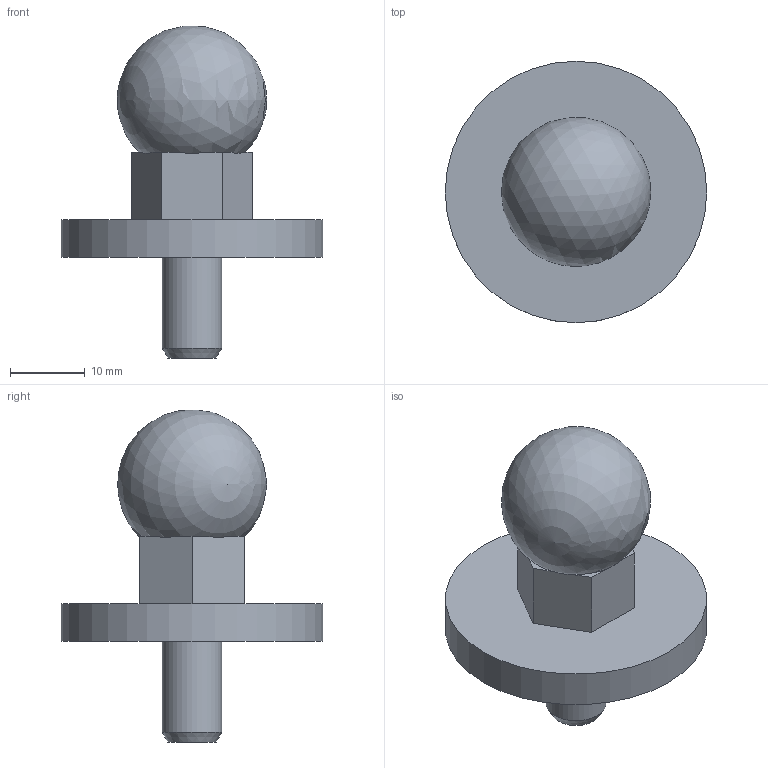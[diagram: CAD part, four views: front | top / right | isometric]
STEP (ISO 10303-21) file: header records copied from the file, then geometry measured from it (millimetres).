
FILE_DESCRIPTION(/* description */ (''),/* implementation_level */ '2;1');
FILE_NAME(/* name */ 'C:\Local Work Area\Progetti\AP\CALIBRI\20.XX 21.XX 22.XX SFERE\20.03.stp',/* time_stamp */ '2020-10-21T16:19:51+02:00',/* author */ ('CAD5'),/* organization */ (''),/* preprocessor_version */ 'ST-DEVELOPER v17.2',/* originating_system */ 'Autodesk Inventor 2019',/* authorisation */ '');
FILE_SCHEMA (('AUTOMOTIVE_DESIGN { 1 0 10303 214 3 1 1 }'));
Length unit declared in the file: millimetre
Products named in the file (5): 20.03; 20.01-A; 20.03-A; 22.01-A; UNI 5923 - M8 x 40
Assembly tree (4 placements, depth 2):
  20.03
    20.01-A
    20.03-A
    22.01-A
    UNI 5923 - M8 x 40
Bounding box: 35 x 35 x 44.43 mm (x, y, z)
Volume: 10985.5 mm3; surface area: 6099.9 mm2
Topology: 4 solids, 4 shells, 35 faces, 89 edges, 60 vertices
Faces by surface type: plane 24, cylinder 5, cone 5, sphere 1
Full cylindrical faces by diameter (mm): 6.647 x2, 7.9 x1, 8 x1, 35 x1
Entity records: 1235 total; most frequent: CARTESIAN_POINT 217, DIRECTION 184, ORIENTED_EDGE 170, EDGE_CURVE 85, AXIS2_PLACEMENT_3D 69, VERTEX_POINT 60, LINE 46, VECTOR 46
